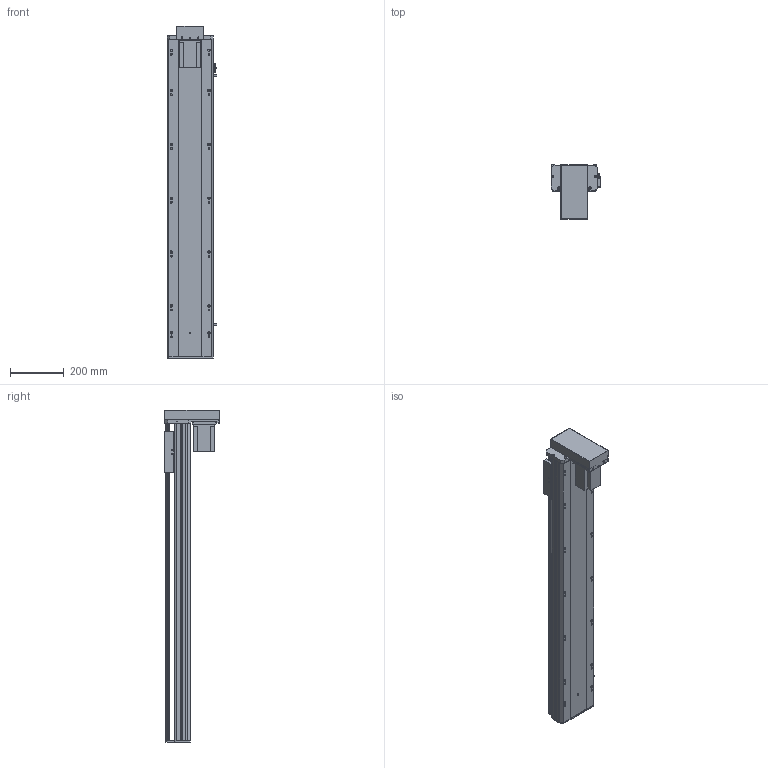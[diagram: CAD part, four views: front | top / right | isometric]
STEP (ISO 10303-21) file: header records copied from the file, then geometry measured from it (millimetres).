
FILE_DESCRIPTION (( 'STEP AP203' ), '1' );
FILE_NAME ('Y170-D10-S950-BM-P750W.STEP', '2020-01-22T03:16:11', ( '微软用户' ), ( '微软中国' ), 'SwSTEP 2.0', 'SolidWorks 2017', '' );
FILE_SCHEMA (( 'CONFIG_CONTROL_DESIGN' ));
Length unit declared in the file: millimetre
Products named in the file (12): Y雄赽釱-耜蚾; Y170-陔遴奻裔-BR; 170-BM耜蚾蟀諉啣; Y170-BM--P750W楊擘啣; -BM俋袗; Y170耜裔--準---; YD-Y100-135-新外置传感挡片(通用）; 170--掛极-BR; Y100-135俋离換覜ん; 侂狟750W; Y170-D10-S950-BM-P750W; EGH20賑輸_蕼偞
Assembly tree (14 placements, depth 2):
  Y170-D10-S950-BM-P750W
    Y170耜裔--準---
    170--掛极-BR
    侂狟750W
    EGH20賑輸_蕼偞  x2
    Y雄赽釱-耜蚾
    Y170-陔遴奻裔-BR
    170-BM耜蚾蟀諉啣
    Y170-BM--P750W楊擘啣
    -BM俋袗
    YD-Y100-135-新外置传感挡片(通用）
    Y100-135俋离換覜ん  x3
Bounding box: 183.5 x 203.5 x 1233.5 mm (x, y, z)
Volume: 5869944.1 mm3; surface area: 2017102 mm2
Topology: 14 solids, 14 shells, 918 faces, 2604 edges, 1718 vertices
Faces by surface type: cylinder 466, plane 436, cone 16
Entity records: 29226 total; most frequent: CARTESIAN_POINT 5223, DIRECTION 4824, ORIENTED_EDGE 4704, EDGE_CURVE 2352, AXIS2_PLACEMENT_3D 1715, VERTEX_POINT 1562, VECTOR 1394, LINE 1394
